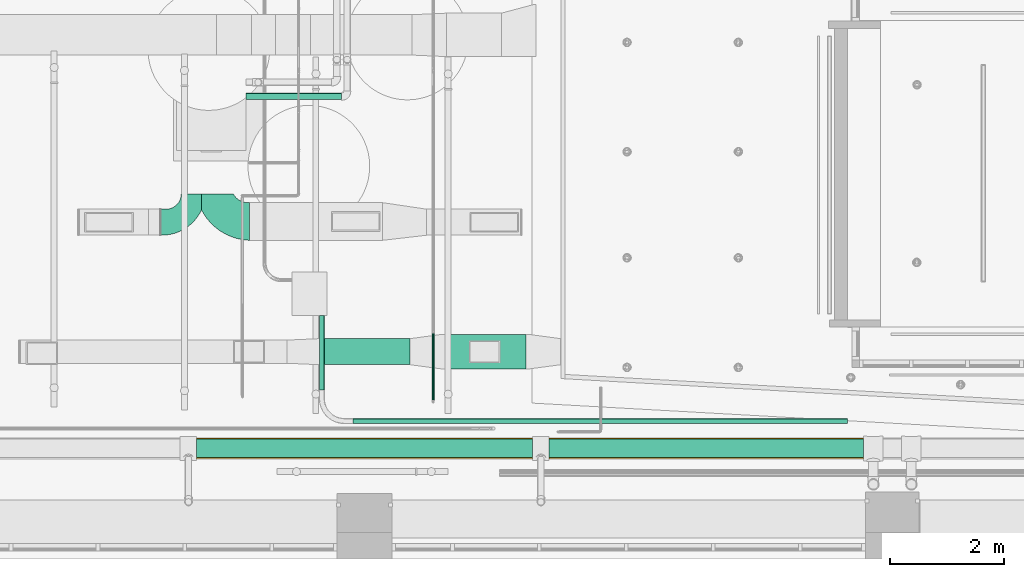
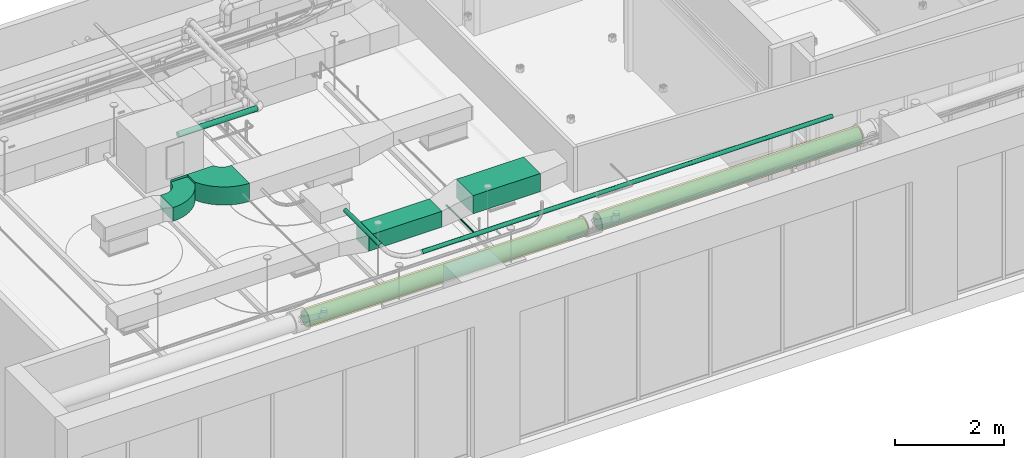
# One storey, part 27 of 108: 4 pipe segments, 2 cable carrier segments, 2 coverings, 2 duct segments, 1 duct fitting.
"""IFC4 building model written with IfcOpenShell, lengths in feet."""

from ifc_helpers import new_model, entity, si_unit, converted_unit, derived_unit, direction, frame, frame_2d, origin, origin_2d_with_axis, place, context, subcontext, project, spatial, polyline, circle_curve, parameter, trimmed, segment, composite_curve, rectangle, circle, outline, extrude, source, transform, mapped, type_object, type_shapes, element, aggregate, save


model = new_model("IFC4")

# Units and contexts
model_context = context("Model", 3, precision=0.0001, world=origin(), true_north=direction((6.12303176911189e-17, 1.0)))
body_context = subcontext(model_context, "Body", "Model", "MODEL_VIEW")
ifc_project = project(units=[converted_unit("LENGTHUNIT", "FOOT", entity("IfcRatioMeasure", 0.3048), si_unit("LENGTHUNIT", "METRE"), dimensions=[1, 0, 0, 0, 0, 0, 0]), converted_unit("AREAUNIT", "SQUARE FOOT", entity("IfcRatioMeasure", 0.09290304), si_unit("AREAUNIT", "SQUARE_METRE"), dimensions=[2, 0, 0, 0, 0, 0, 0]), converted_unit("VOLUMEUNIT", "CUBIC FOOT", entity("IfcRatioMeasure", 0.028316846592), si_unit("VOLUMEUNIT", "CUBIC_METRE"), dimensions=[3, 0, 0, 0, 0, 0, 0]), converted_unit("PLANEANGLEUNIT", "DEGREE", entity("IfcRatioMeasure", 0.0174532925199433), si_unit("PLANEANGLEUNIT", "RADIAN"), dimensions=[0, 0, 0, 0, 0, 0, 0]), si_unit("MASSUNIT", "GRAM", prefix="KILO"), derived_unit("MASSDENSITYUNIT", [(si_unit("MASSUNIT", "GRAM", prefix="KILO"), 1), (si_unit("LENGTHUNIT", "METRE"), -3)]), si_unit("TIMEUNIT", "SECOND"), si_unit("FREQUENCYUNIT", "HERTZ"), si_unit("THERMODYNAMICTEMPERATUREUNIT", "DEGREE_CELSIUS"), derived_unit("THERMALTRANSMITTANCEUNIT", [(si_unit("MASSUNIT", "GRAM", prefix="KILO"), 1), (si_unit("THERMODYNAMICTEMPERATUREUNIT", "KELVIN"), -1), (si_unit("TIMEUNIT", "SECOND"), -3)]), derived_unit("VOLUMETRICFLOWRATEUNIT", [(si_unit("LENGTHUNIT", "METRE"), 3), (si_unit("TIMEUNIT", "SECOND"), -1)]), si_unit("ELECTRICCURRENTUNIT", "AMPERE"), si_unit("ELECTRICVOLTAGEUNIT", "VOLT"), si_unit("POWERUNIT", "WATT"), si_unit("FORCEUNIT", "NEWTON"), si_unit("ILLUMINANCEUNIT", "LUX"), si_unit("LUMINOUSFLUXUNIT", "LUMEN"), si_unit("LUMINOUSINTENSITYUNIT", "CANDELA"), derived_unit("USERDEFINED", [(si_unit("MASSUNIT", "GRAM", prefix="KILO"), -1), (si_unit("LENGTHUNIT", "METRE"), -2), (si_unit("TIMEUNIT", "SECOND"), 3), (si_unit("LUMINOUSFLUXUNIT", "LUMEN"), 1)]), derived_unit("LINEARVELOCITYUNIT", [(si_unit("LENGTHUNIT", "METRE"), 1), (si_unit("TIMEUNIT", "SECOND"), -1)]), si_unit("PRESSUREUNIT", "PASCAL"), derived_unit("USERDEFINED", [(si_unit("LENGTHUNIT", "METRE"), -2), (si_unit("MASSUNIT", "GRAM", prefix="KILO"), 1), (si_unit("TIMEUNIT", "SECOND"), -2)])], contexts=[model_context])

# Covering
site_placement = place(None, origin())
building_placement = place(site_placement, origin())
storey_placement = place(building_placement, frame((0.0, 0.0, 168.0)))
covering_1_placement = place(storey_placement, frame((-39.3664662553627, -17.3700330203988, 8.71351616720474)))
covering_1 = element("IfcCovering", 1, at=covering_1_placement, Name="Pipe Insulation:Default", ObjectType="Pipe Insulation:Default", PredefinedType="INSULATION", context=body_context, shape_type="SweptSolid", body=[
    extrude(circle(Radius=0.614583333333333, at=frame_2d((3.5527136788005e-15, 2.8421709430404e-14), x_axis=(1.0, 0.0))), frame((0.0, 0.619817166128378, 0.619817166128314), z_axis=(1.0, 0.0, 0.0), x_axis=(0.0, 1.0, 0.0)), (0.0, 0.0, 1.0), 19.3216736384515),
])

covering_2_placement = place(storey_placement, frame((-19.0889072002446, -17.3700330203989, 8.71351616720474)))
covering_2 = element("IfcCovering", 2, at=covering_2_placement, Name="Pipe Insulation:Default", ObjectType="Pipe Insulation:Default", PredefinedType="INSULATION", context=body_context, shape_type="SweptSolid", body=[
    extrude(circle(Radius=0.614583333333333, at=frame_2d((0.0, 2.8421709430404e-14), x_axis=(1.0, 0.0))), frame((0.0, 0.61981716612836, 0.619817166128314), z_axis=(1.0, 0.0, 0.0), x_axis=(0.0, 1.0, 0.0)), (0.0, 0.0, 1.0), 18.08078125),
])

# Site, building, storey
site = spatial("IfcSite", under=ifc_project, at=site_placement, Name="Default", CompositionType="ELEMENT")
building = spatial("IfcBuilding", under=site, at=building_placement, CompositionType="ELEMENT")
storey = spatial("IfcBuildingStorey", under=building, at=storey_placement, Name="Level 15", CompositionType="ELEMENT", Elevation=168.0)

# Duct segments
duct_segment_type = type_object("IfcDuctSegmentType", Name="Rectangular Duct:Square Throat Elbows / S&D", PredefinedType="NOTDEFINED")
duct_segment_1_placement = place(storey_placement, frame((-32.1750204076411, -11.9321076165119, 8.81249999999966)))
element("IfcDuctSegment", 3, at=duct_segment_1_placement, inside=storey, type_object=duct_segment_type, Name="Rectangular Duct:Square Throat Elbows / S&D", ObjectType="Rectangular Duct:Square Throat Elbows / S&D", PredefinedType="NOTDEFINED", context=body_context, shape_type="SweptSolid", body=[
    extrude(rectangle(XDim=5.08250000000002, YDim=1.5, at=frame_2d((-1.77635683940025e-15, 8.88178419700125e-16), x_axis=(1.0, 0.0))), frame((2.54125000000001, 0.750000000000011, 0.0)), (0.0, 0.0, 1.0), 1.16666666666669),
])
duct_segment_2_placement = place(storey_placement, frame((-25.0925204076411, -12.1821076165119, 9.22916666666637)))
element("IfcDuctSegment", 4, at=duct_segment_2_placement, inside=storey, type_object=duct_segment_type, Name="Rectangular Duct:Square Throat Elbows / S&D", ObjectType="Rectangular Duct:Square Throat Elbows / S&D", PredefinedType="NOTDEFINED", context=body_context, shape_type="SweptSolid", body=[
    extrude(rectangle(XDim=4.66583333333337, YDim=2.0, at=origin_2d_with_axis()), frame((2.33291666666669, 1.0, 0.0)), (0.0, 0.0, 1.0), 1.33333333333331),
])

# Pipe segment
pipe_segment_type_1 = type_object("IfcPipeSegmentType", Name="Pipe Types:Fire Prot Sched 10 Main", PredefinedType="NOTDEFINED")
pipe_segment_1_placement = place(storey_placement, frame((-25.8207476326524, -13.9613579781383, 8.81497450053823)))
element("IfcPipeSegment", 5, at=pipe_segment_1_placement, inside=storey, type_object=pipe_segment_type_1, Name="Pipe Types:Fire Prot Sched 10 Main", ObjectType="Pipe Types:Fire Prot Sched 10 Main", PredefinedType="NOTDEFINED", context=body_context, shape_type="SweptSolid", body=[
    extrude(circle(Radius=0.0547916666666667, at=origin_2d_with_axis()), frame((0.0600254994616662, 0.0, 0.0600254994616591), z_axis=(0.0, 1.0, 0.0), x_axis=(-1.0, 0.0, 0.0)), (0.0, 0.0, 1.0), 3.83039667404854),
])

# Cable carrier segments
cable_carrier_segment_type = type_object("IfcCableCarrierSegmentType", Name="Conduit with Fittings:Conduit", PredefinedType="NOTDEFINED")
cable_carrier_segment_1_placement = place(storey_placement, frame((-30.3718553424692, -15.3233322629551, 9.95309950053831)))
element("IfcCableCarrierSegment", 6, at=cable_carrier_segment_1_placement, inside=storey, type_object=cable_carrier_segment_type, Name="Conduit with Fittings:Conduit", ObjectType="Conduit with Fittings:Conduit", PredefinedType="NOTDEFINED", context=body_context, shape_type="SweptSolid", body=[
    extrude(circle(Radius=0.145833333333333, at=frame_2d((1.77635683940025e-15, 0.0), x_axis=(1.0, 0.0))), frame((0.0, 0.151067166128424, 0.151067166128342), z_axis=(1.0, 0.0, 0.0), x_axis=(0.0, -1.0, 0.0)), (0.0, 0.0, 1.0), 28.4583333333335),
])
cable_carrier_segment_2_placement = place(storey_placement, frame((-32.314589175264, -13.3805984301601, 9.95309950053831)))
element("IfcCableCarrierSegment", 7, at=cable_carrier_segment_2_placement, inside=storey, type_object=cable_carrier_segment_type, Name="Conduit with Fittings:Conduit", ObjectType="Conduit with Fittings:Conduit", PredefinedType="NOTDEFINED", context=body_context, shape_type="SweptSolid", body=[
    extrude(circle(Radius=0.145833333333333, at=origin_2d_with_axis()), frame((0.151067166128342, 0.0, 0.151067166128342), z_axis=(0.0, 1.0, 0.0), x_axis=(1.0, 0.0, 0.0)), (0.0, 0.0, 1.0), 4.27691384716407),
])

# Pipe segment
pipe_segment_type_2 = type_object("IfcPipeSegmentType", Name="Pipe Types:Hydronic", PredefinedType="NOTDEFINED")
pipe_segment_2_placement = place(storey_placement, frame((-36.5244143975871, 3.30904962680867, 9.34893283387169)))
element("IfcPipeSegment", 8, at=pipe_segment_2_placement, inside=storey, type_object=pipe_segment_type_2, Name="Pipe Types:Hydronic", ObjectType="Pipe Types:Hydronic", PredefinedType="NOTDEFINED", context=body_context, shape_type="SweptSolid", body=[
    extrude(circle(Radius=0.1875, at=frame_2d((-1.06581410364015e-14, 0.0), x_axis=(1.0, 0.0))), frame((0.0, 0.192733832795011, 0.192733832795), z_axis=(1.0, 0.0, 0.0), x_axis=(0.0, 1.0, 0.0)), (0.0, 0.0, 1.0), 5.49045624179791),
])

pipe_segment_3_placement = place(storey_placement, frame((-39.3664662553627, -17.2866996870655, 8.79684950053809)))
pipe_segment_3 = element("IfcPipeSegment", 9, at=pipe_segment_3_placement, inside=storey, type_object=pipe_segment_type_2, Name="Pipe Types:Hydronic", ObjectType="Pipe Types:Hydronic", PredefinedType="NOTDEFINED", context=body_context, shape_type="SweptSolid", body=[
    extrude(circle(Radius=0.53125, at=frame_2d((3.5527136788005e-15, 0.0), x_axis=(1.0, 0.0))), frame((0.0, 0.536483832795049, 0.536483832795), z_axis=(1.0, 0.0, 0.0), x_axis=(0.0, -1.0, 0.0)), (0.0, 0.0, 1.0), 19.3216736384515),
])

aggregate(pipe_segment_3, [covering_1])

pipe_segment_4_placement = place(storey_placement, frame((-19.0889072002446, -17.2866996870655, 8.79684950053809)))
pipe_segment_4 = element("IfcPipeSegment", 10, at=pipe_segment_4_placement, inside=storey, type_object=pipe_segment_type_2, Name="Pipe Types:Hydronic", ObjectType="Pipe Types:Hydronic", PredefinedType="NOTDEFINED", context=body_context, shape_type="SweptSolid", body=[
    extrude(circle(Radius=0.53125, at=origin_2d_with_axis()), frame((0.0, 0.536483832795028, 0.536483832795), z_axis=(1.0, 0.0, 0.0), x_axis=(0.0, -1.0, 0.0)), (0.0, 0.0, 1.0), 18.08078125),
])

aggregate(pipe_segment_4, [covering_2])

# Duct fitting
duct_fitting_type = type_object("IfcDuctFittingType", Name="Standard", PredefinedType="NOTDEFINED")
shared_shape = source(origin(), body_context, "Body", "SweptSolid", [
    extrude(outline(composite_curve([segment(polyline([(-1.31890190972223, 0.838650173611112), (-1.31890190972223, -0.0780164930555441)]), True, "CONTINUOUS"), segment(trimmed(circle_curve(frame_2d((0.969459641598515, 0.992378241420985), x_axis=(1.0, 0.0)), 2.52633004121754), [parameter(205.068122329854)], [parameter(271.492592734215)], True, "PARAMETER"), True, "CONTINUOUS"), segment(polyline([(1.03526475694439, -1.53309461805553), (1.0352647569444, -0.0330946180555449)]), True, "CONTINUOUS"), segment(polyline([(1.0352647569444, -0.0330946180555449), (0.719509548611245, -0.0330946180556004)]), True, "CONTINUOUS"), segment(trimmed(circle_curve(frame_2d((0.719509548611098, 0.838650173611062), x_axis=(1.0, 0.0)), 0.871744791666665), [parameter(179.999999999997)], [parameter(270.00000000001)], True, "PARAMETER"), False, "CONTINUOUS"), segment(polyline([(-0.152235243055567, 0.838650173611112), (-1.31890190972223, 0.838650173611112)]), True, "CONTINUOUS")], self_intersect=False)), frame((1.31890190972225, 0.109483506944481, 0.166666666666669), z_axis=(0.0, 0.0, -1.0), x_axis=(1.0, 0.0, 0.0)), (0.0, 0.0, -1.0), 1.0),
    extrude(rectangle(XDim=0.0104166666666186, YDim=3.0, at=origin_2d_with_axis()), frame((-0.333333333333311, -0.734374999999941, 0.0), z_axis=(0.0, 0.0, 1.0), x_axis=(0.0, 1.0, 0.0)), (0.0, 0.0, 1.0), 1.33333333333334),
    extrude(outline(composite_curve([segment(polyline([(-0.815354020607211, -1.47499999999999), (0.101312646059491, -1.47499999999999)]), True, "CONTINUOUS"), segment(trimmed(circle_curve(frame_2d((-1.3719059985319, 1.39165708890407), x_axis=(0.0, -1.0)), 3.22305694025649), [parameter(27.1993204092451)], [parameter(88.2963050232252)], True, "PARAMETER"), True, "CONTINUOUS"), segment(polyline([(1.84972617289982, 1.29583333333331), (-0.320330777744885, 1.29583333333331)]), True, "CONTINUOUS"), segment(trimmed(circle_curve(frame_2d((-1.29154200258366, 1.20921466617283), x_axis=(0.0, -1.0)), 0.975066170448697), [parameter(29.2331602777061)], [parameter(95.0965102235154)], True, "PARAMETER"), False, "CONTINUOUS"), segment(polyline([(-0.815354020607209, 0.358333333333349), (-0.815354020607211, -1.47499999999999)]), True, "CONTINUOUS")], self_intersect=False)), frame((-1.47499999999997, 0.0861873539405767, 0.0), z_axis=(0.0, 0.0, 1.0), x_axis=(0.0, 1.0, 0.0)), (0.0, 0.0, 1.0), 1.33333333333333),
])
type_shapes(duct_fitting_type, [shared_shape])
duct_fitting_placement = place(storey_placement, frame((-39.0902562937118, -2.84074122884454, 9.58333333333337), z_axis=(0.0, 0.0, 1.0), x_axis=(-1.0, 0.0, 0.0)))
element("IfcDuctFitting", 11, at=duct_fitting_placement, inside=storey, type_object=duct_fitting_type, Name="Rectangular Wye - Curved - Transition:Standard", ObjectType="Rectangular Wye - Curved - Transition:Standard", PredefinedType="NOTDEFINED", context=body_context, shape_type="MappedRepresentation", body=[
    mapped(shared_shape, transform((0.0, 0.0, 0.0), scale=1.0)),
])

save(model, "model.ifc")
